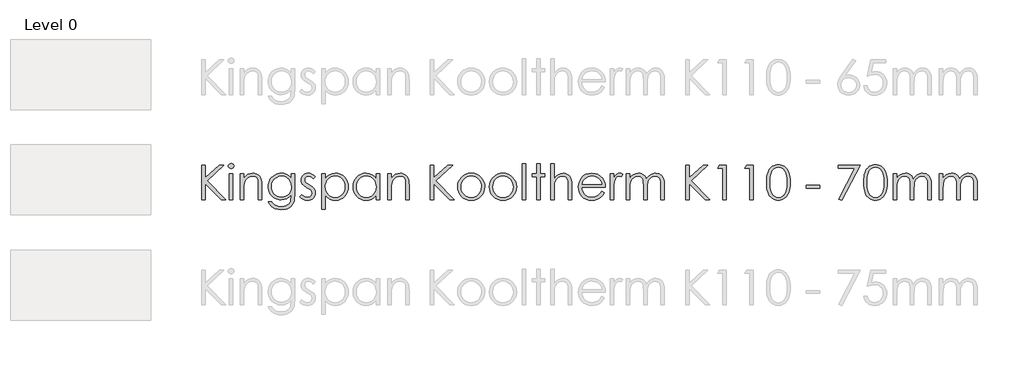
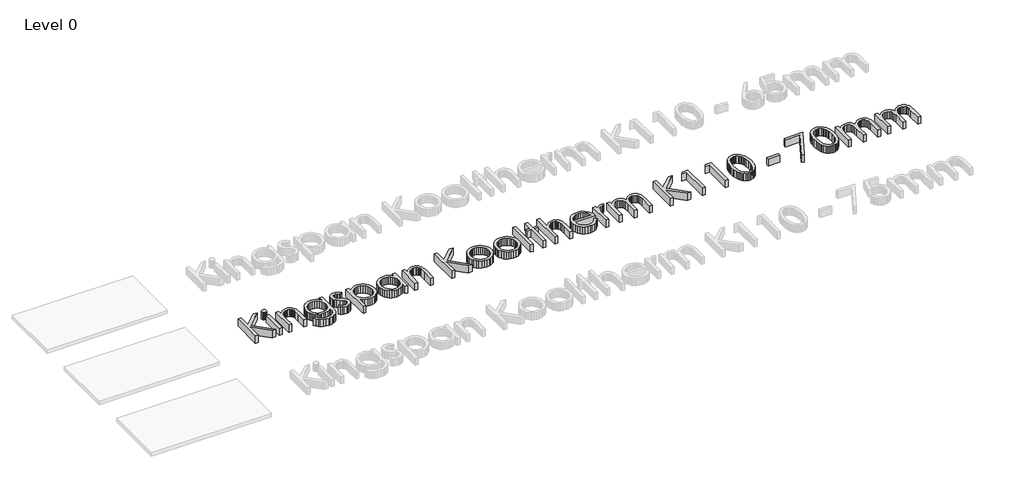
# One storey, part 8 of 9: 1 proxy.
"""IFC4 building model written with IfcOpenShell, lengths in millimetres."""

from ifc_helpers import new_model, si_unit, origin, origin_with_axes, place, context, project, spatial, polyline, outline, extrude, element, save

model = new_model("IFC4")

# Units and contexts
model_context = context("Model", 3, world=origin())
ifc_project = project(units=[si_unit("LENGTHUNIT", "METRE", prefix="MILLI")], contexts=[model_context])

# Site, building, storey
site = spatial("IfcSite", under=ifc_project)
building = spatial("IfcBuilding", under=site)
storey = spatial("IfcBuildingStorey", under=building, Name="Level 0", Elevation=0.0)

# Proxy
placement = place(None, origin())
element("IfcBuildingElementProxy", 1, Name="600mm KI_CenturyGothic", ObjectType="600mm KI_CenturyGothic", at=placement, inside=storey, context=model_context, shape_type="SweptSolid", body=[
    extrude(outline(polyline([(-3852.2663848, 4100.8965983), (-3792.944575, 4100.8965983), (-3792.944575, 3881.683973), (-3555.1938841, 4100.8965983), (-3471.6181051, 4100.8965983), (-3760.9664119, 3833.9484541), (-3441.9572002, 3507.6785001), (-3520.8984627, 3507.6785001), (-3792.944575, 3785.9039675), (-3792.944575, 3507.6785001), (-3852.2663848, 3507.6785001), (-3852.2663848, 4100.8965983)])), origin_with_axes(), (0.0, 0.0, 1.0), 150.0),
    extrude(outline(polyline([(-3348.1854852, 4130.5575033), (-3329.145347, 4127.2747208), (-3313.1176445, 4117.4263735), (-3302.226531, 4102.9821307), (-3298.5961598, 4085.911662), (-3302.226531, 4069.0729191), (-3313.1176445, 4054.7059183), (-3329.145347, 4044.857571), (-3348.1854852, 4041.5747885), (-3366.9938975, 4044.857571), (-3382.9443581, 4054.7059183), (-3393.8354717, 4069.0729191), (-3397.4658428, 4085.911662), (-3393.8354717, 4102.9821307), (-3382.9443581, 4117.4263735), (-3366.9938975, 4127.2747208), (-3348.1854852, 4130.5575033)])), origin_with_axes(), (0.0, 0.0, 1.0), 150.0),
    extrude(outline(polyline([(-3377.6919062, 3952.5920738), (-3318.3700964, 3952.5920738), (-3318.3700964, 3507.6785001), (-3377.6919062, 3507.6785001), (-3377.6919062, 3952.5920738)])), origin_with_axes(), (0.0, 0.0, 1.0), 150.0),
    extrude(outline(polyline([(-3189.8395084, 3952.5920738), (-3130.5176986, 3952.5920738), (-3130.5176986, 3873.4963274), (-3096.9946967, 3913.0055796), (-3060.0730495, 3940.696815), (-3019.7141359, 3957.0334853), (-2975.879335, 3962.4790421), (-2953.4357238, 3960.9004099), (-2932.2955704, 3956.1645135), (-2912.4588747, 3948.2713528), (-2893.9256368, 3937.2209277), (-2877.212412, 3923.4960006), (-2862.835756, 3907.5793333), (-2841.0921499, 3869.1707787), (-2833.6238199, 3844.7912914), (-2828.2892984, 3814.4448643), (-2824.0216812, 3735.8511905), (-2824.0216812, 3507.6785001), (-2883.343491, 3507.6785001), (-2883.343491, 3720.8662542), (-2883.343491, 3823.907002), (-2884.7290183, 3844.7043943), (-2889.8125035, 3862.7596977), (-2898.2849788, 3878.0729123), (-2910.1464442, 3890.644038), (-2924.7403432, 3900.4441091), (-2941.4101193, 3907.4441599), (-2980.977303, 3913.0442006), (-3005.3471351, 3910.8862539), (-3028.4038541, 3904.4124138), (-3050.1474602, 3893.6226803), (-3070.5779533, 3878.5170534), (-3088.6622225, 3860.2348518), (-3103.3671568, 3839.915394), (-3114.6927562, 3817.55868), (-3122.6390208, 3793.1647099), (-3128.5480292, 3746.0857475), (-3130.5176986, 3671.5858965), (-3130.5176986, 3507.6785001), (-3189.8395084, 3507.6785001), (-3189.8395084, 3952.5920738)])), origin_with_axes(), (0.0, 0.0, 1.0), 150.0),
    extrude(outline(polyline([(-2319.7862977, 3952.5920738), (-2260.4644879, 3952.5920738), (-2260.4644879, 3601.604699), (-2264.5196897, 3521.3503235), (-2269.588692, 3490.5500999), (-2276.6852953, 3465.9678526), (-2289.9371156, 3437.3545415), (-2307.2924139, 3412.2267729), (-2328.7511904, 3390.5845469), (-2354.3134448, 3372.4278634), (-2383.3226209, 3358.0656902), (-2415.122162, 3347.8069951), (-2449.7120682, 3341.651778), (-2487.0923395, 3339.6000389), (-2541.0458345, 3343.6166198), (-2589.206184, 3355.6663624), (-2630.260275, 3374.4940853), (-2662.8949946, 3398.8446068), (-2690.2000204, 3432.1938144), (-2715.2650299, 3478.0175952), (-2655.94322, 3478.0175952), (-2642.4355358, 3456.848476), (-2627.0933555, 3438.6048954), (-2609.9166791, 3423.2868532), (-2590.9055067, 3410.8943494), (-2569.7894914, 3401.3308318), (-2546.2982864, 3394.4997477), (-2492.1903075, 3389.0348805), (-2438.5071593, 3394.3645743), (-2415.083541, 3401.0266916), (-2393.93856, 3410.3536559), (-2359.6624492, 3434.3952097), (-2336.8567664, 3463.8823202), (-2329.3884364, 3482.5217658), (-2324.0539149, 3506.2302137), (-2319.7862977, 3568.8541165), (-2319.7862977, 3591.5632468), (-2354.757586, 3555.7809182), (-2396.6420279, 3529.3834852), (-2443.392712, 3513.1047464), (-2492.9627269, 3507.6785001), (-2522.4063889, 3509.5757553), (-2550.9521133, 3515.2675207), (-2578.5999001, 3524.7537964), (-2605.3497494, 3538.0345825), (-2630.1540674, 3554.5257366), (-2651.9652601, 3573.6431168), (-2670.7833277, 3595.3867228), (-2686.6082702, 3619.7565549), (-2699.1456025, 3646.0719183), (-2708.1008399, 3673.6521184), (-2713.4739824, 3702.4971553), (-2715.2650299, 3732.607029), (-2713.3967404, 3762.8955247), (-2707.7918722, 3792.1219437), (-2698.4504251, 3820.286286), (-2685.3723991, 3847.3885517), (-2668.9971079, 3872.5742517), (-2649.7638648, 3894.9888971), (-2627.67267, 3914.632488), (-2602.7235235, 3931.5050242), (-2575.9833294, 3945.056157), (-2548.5189922, 3954.7355376), (-2520.3305117, 3960.543166), (-2491.4178881, 3962.4790421), (-2444.5320306, 3957.5355579), (-2400.8903346, 3942.7051055), (-2359.6045177, 3916.1338782), (-2319.7862977, 3875.9680694), (-2319.7862977, 3952.5920738)]), holes=[polyline([(-2484.1571458, 3913.0442006), (-2529.0154023, 3907.0193293), (-2570.5908765, 3888.9447153), (-2606.2187212, 3860.2300242), (-2633.2340897, 3822.2849212), (-2650.2659375, 3778.0059792), (-2655.94322, 3730.2897708), (-2653.0080263, 3694.3770964), (-2644.2024452, 3661.7182387), (-2629.5264766, 3632.3131977), (-2608.9801206, 3606.1619734), (-2583.7606272, 3584.703197), (-2555.0652466, 3569.3754996), (-2522.8939786, 3560.1788811), (-2487.2468234, 3557.1133416), (-2451.3244937, 3560.154743), (-2419.1001219, 3569.2789472), (-2390.573708, 3584.4859541), (-2365.7452519, 3605.7757637), (-2345.6382095, 3632.0187128), (-2331.2760363, 3662.0851379), (-2322.6587323, 3695.975039), (-2319.7862977, 3733.6884162), (-2325.0773706, 3782.3894593), (-2340.9505892, 3825.6063246), (-2366.4983608, 3861.8327944), (-2400.8130926, 3889.5626508), (-2440.9982119, 3907.1738131), (-2484.1571458, 3913.0442006)])]), origin_with_axes(), (0.0, 0.0, 1.0), 150.0),
    extrude(outline(polyline([(-1904.5336289, 3901.3034257), (-1940.9918246, 3863.609359), (-1962.9575012, 3885.2371022), (-1984.6721416, 3900.6854902), (-2006.1357456, 3909.954523), (-2027.3483133, 3913.0442006), (-2052.181597, 3908.3710632), (-2073.2300256, 3894.3516511), (-2087.5970264, 3874.1142629), (-2092.3860267, 3850.787197), (-2088.4466878, 3829.2366958), (-2076.628671, 3808.7675817), (-2052.0657341, 3786.599145), (-2010.2006027, 3760.877579), (-1958.3326401, 3728.0111336), (-1939.8428507, 3712.1861912), (-1926.315856, 3696.7667689), (-1909.9791857, 3664.0934284), (-1904.5336289, 3627.5579908), (-1906.9474396, 3601.4115941), (-1914.1888714, 3577.3507299), (-1926.2579245, 3555.375398), (-1943.1545989, 3535.4855985), (-1963.6719892, 3518.9944443), (-1986.6031901, 3507.2150485), (-2011.9482016, 3500.147411), (-2039.7070237, 3497.7915318), (-2077.4397114, 3501.6729393), (-2113.3958344, 3513.3171617), (-2145.4512394, 3531.7972958), (-2171.4817731, 3556.1864383), (-2135.7959969, 3596.6612148), (-2114.0041146, 3575.0334717), (-2091.5749863, 3559.5850837), (-2068.5086121, 3550.3160509), (-2044.8049918, 3547.2263733), (-2013.637869, 3552.8650349), (-1987.4914724, 3569.7810198), (-1969.7644472, 3594.3439566), (-1963.8554388, 3622.9234744), (-1967.7561567, 3646.7139919), (-1979.4583106, 3667.7237995), (-2005.0253927, 3689.4287846), (-2050.2119275, 3716.2317378), (-2099.762632, 3746.8967879), (-2117.441381, 3762.0555186), (-2130.3890611, 3777.0983864), (-2146.3781427, 3809.2310334), (-2151.7078365, 3845.689229), (-2149.5305794, 3869.7356104), (-2142.9988078, 3891.6674937), (-2132.1125219, 3911.4848789), (-2116.8717217, 3929.187766), (-2098.309518, 3943.7526993), (-2077.4590218, 3954.1562231), (-2054.3202332, 3960.3983373), (-2028.8931521, 3962.4790421), (-1997.9481, 3958.6555661), (-1966.9064954, 3947.185138), (-1935.7683384, 3928.0677579), (-1904.5336289, 3901.3034257)])), origin_with_axes(), (0.0, 0.0, 1.0), 150.0),
    extrude(outline(polyline([(-1795.7769776, 3952.5920738), (-1736.4551678, 3952.5920738), (-1736.4551678, 3871.4880369), (-1700.9238754, 3911.7310876), (-1660.4490989, 3940.0788795), (-1614.9922173, 3956.8790014), (-1564.5146096, 3962.4790421), (-1520.0618732, 3958.2403906), (-1478.9305402, 3945.5244363), (-1441.1206107, 3924.331179), (-1406.6320845, 3894.6606189), (-1377.9077381, 3859.0231189), (-1357.3903478, 3819.929042), (-1345.0799137, 3777.3783884), (-1340.9764356, 3731.371158), (-1345.0412927, 3684.4708176), (-1357.235864, 3641.2491246), (-1377.5601494, 3601.706079), (-1406.014149, 3565.8416808), (-1440.2130179, 3536.0697406), (-1477.7719111, 3514.8040691), (-1518.6908288, 3502.0446661), (-1562.9697708, 3497.7915318), (-1612.6170277, 3503.256399), (-1658.0545988, 3519.6510008), (-1699.3211052, 3546.8980951), (-1736.4551678, 3584.92044), (-1736.4551678, 3349.4870072), (-1795.7769776, 3349.4870072), (-1795.7769776, 3952.5920738)]), holes=[polyline([(-1568.5311905, 3913.0442006), (-1602.5852307, 3909.7469353), (-1633.8392507, 3899.8551393), (-1662.2932503, 3883.3688128), (-1687.9472295, 3860.2879556), (-1709.1694525, 3832.3022353), (-1724.3281832, 3801.1013192), (-1733.4234216, 3766.6852074), (-1736.4551678, 3729.0538998), (-1731.048232, 3680.1983728), (-1714.8274246, 3636.5180558), (-1688.5265441, 3599.6736505), (-1652.8793888, 3571.3258586), (-1611.4390881, 3553.2512446), (-1567.7587711, 3547.2263733), (-1525.0632888, 3553.2898656), (-1485.0326535, 3571.4803424), (-1450.2544701, 3600.5812433), (-1423.3163435, 3639.3760076), (-1406.05277, 3684.0411593), (-1400.2982454, 3730.7532225), (-1405.9948385, 3777.6970114), (-1423.0846177, 3822.1304373), (-1449.8103289, 3860.4810605), (-1484.414718, 3889.1764411), (-1524.7157001, 3907.0772607), (-1568.5311905, 3913.0442006)])]), origin_with_axes(), (0.0, 0.0, 1.0), 150.0),
    extrude(outline(polyline([(-807.0801472, 3952.5920738), (-807.0801472, 3507.6785001), (-866.401957, 3507.6785001), (-866.401957, 3583.5300851), (-903.4780882, 3545.6815345), (-944.8797679, 3518.9558233), (-990.4525125, 3503.0826047), (-1040.0418379, 3497.7915318), (-1084.3159523, 3502.0446661), (-1125.2203871, 3514.8040691), (-1162.7551422, 3536.0697406), (-1196.9202178, 3565.8416808), (-1225.340424, 3601.706079), (-1245.6405713, 3641.2491246), (-1257.8206597, 3684.4708176), (-1261.8806892, 3731.371158), (-1257.7820388, 3777.3783884), (-1245.4860875, 3819.929042), (-1224.9928353, 3859.0231189), (-1196.3022822, 3894.6606189), (-1161.8475494, 3924.331179), (-1124.061758, 3945.5244363), (-1082.9449079, 3958.2403906), (-1038.4969991, 3962.4790421), (-987.7490446, 3956.8790014), (-942.0990581, 3940.0788795), (-921.2051134, 3927.3918909), (-901.6242816, 3911.7310876), (-866.401957, 3871.4880369), (-866.401957, 3952.5920738), (-807.0801472, 3952.5920738)]), holes=[polyline([(-1034.3259343, 3913.0442006), (-1078.1414247, 3907.0772607), (-1118.4424068, 3889.1764411), (-1153.0467959, 3860.4810605), (-1179.7725071, 3822.1304373), (-1196.8622863, 3777.6970114), (-1202.5588794, 3730.7532225), (-1196.8043548, 3684.0411593), (-1179.5407813, 3639.3760076), (-1152.6026548, 3600.5812433), (-1117.8244713, 3571.4803424), (-1077.6779731, 3553.2898656), (-1034.6349021, 3547.2263733), (-991.0125165, 3553.2512446), (-949.7460102, 3571.3258586), (-914.2726493, 3599.6736505), (-888.0297002, 3636.5180558), (-871.8088928, 3680.1983728), (-866.401957, 3729.0538998), (-869.4337032, 3766.6852074), (-878.5289416, 3801.1013192), (-893.6876723, 3832.3022353), (-914.9098953, 3860.2879556), (-940.5638746, 3883.3688128), (-969.0178742, 3899.8551393), (-1000.2718941, 3909.7469353), (-1034.3259343, 3913.0442006)])]), origin_with_axes(), (0.0, 0.0, 1.0), 150.0),
    extrude(outline(polyline([(-668.662591, 3952.5920738), (-609.3407811, 3952.5920738), (-609.3407811, 3873.4963274), (-575.8177792, 3913.0055796), (-538.896132, 3940.696815), (-498.5372184, 3957.0334853), (-454.7024175, 3962.4790421), (-432.2588064, 3960.9004099), (-411.1186529, 3956.1645135), (-391.2819572, 3948.2713528), (-372.7487193, 3937.2209277), (-356.0354946, 3923.4960006), (-341.6588385, 3907.5793333), (-319.9152324, 3869.1707787), (-312.4469024, 3844.7912914), (-307.1123809, 3814.4448643), (-302.8447637, 3735.8511905), (-302.8447637, 3507.6785001), (-362.1665735, 3507.6785001), (-362.1665735, 3720.8662542), (-362.1665735, 3823.907002), (-363.5521008, 3844.7043943), (-368.635586, 3862.7596977), (-377.1080613, 3878.0729123), (-388.9695267, 3890.644038), (-403.5634257, 3900.4441091), (-420.2332018, 3907.4441599), (-459.8003855, 3913.0442006), (-484.1702176, 3910.8862539), (-507.2269366, 3904.4124138), (-528.9705427, 3893.6226803), (-549.4010358, 3878.5170534), (-567.485305, 3860.2348518), (-582.1902393, 3839.915394), (-593.5158387, 3817.55868), (-601.4621033, 3793.1647099), (-607.3711117, 3746.0857475), (-609.3407811, 3671.5858965), (-609.3407811, 3507.6785001), (-668.662591, 3507.6785001), (-668.662591, 3952.5920738)])), origin_with_axes(), (0.0, 0.0, 1.0), 150.0),
    extrude(outline(polyline([(62.9730635, 4100.8965983), (122.2948734, 4100.8965983), (122.2948734, 3881.683973), (360.0455643, 4100.8965983), (443.6213432, 4100.8965983), (154.2730365, 3833.9484541), (473.2822481, 3507.6785001), (394.3409856, 3507.6785001), (122.2948734, 3785.9039675), (122.2948734, 3507.6785001), (62.9730635, 3507.6785001), (62.9730635, 4100.8965983)])), origin_with_axes(), (0.0, 0.0, 1.0), 150.0),
    extrude(outline(polyline([(760.1588128, 3962.4790421), (809.4681362, 3957.8541809), (854.3553585, 3943.9795975), (894.8204798, 3920.8552917), (930.8635, 3888.4812637), (957.7630055, 3853.2492839), (976.9769381, 3814.908316), (988.5052976, 3773.45836), (992.3480841, 3728.8994159), (988.283227, 3684.0846079), (976.0886558, 3642.1760279), (955.7643703, 3603.1736759), (927.3103707, 3567.0775519), (892.4742558, 3536.7649181), (853.0036246, 3515.1130368), (808.8984769, 3502.1219081), (760.1588128, 3497.7915318), (711.2839754, 3502.1219081), (667.0822753, 3515.1130368), (627.5537126, 3536.7649181), (592.6982872, 3567.0775519), (564.2442876, 3603.1736759), (543.9200022, 3642.1760279), (531.7254309, 3684.0846079), (527.6605738, 3728.8994159), (531.5033603, 3773.2652551), (543.0317198, 3814.5993482), (562.2456524, 3852.9016951), (589.145158, 3888.1722959), (625.2074886, 3920.6814974), (665.7305413, 3943.9023555), (710.7143161, 3957.8348705), (760.1588128, 3962.4790421)]), holes=[polyline([(760.004329, 3913.0442006), (725.7282181, 3909.6696933), (693.9624704, 3899.5461716), (664.7070856, 3882.6736353), (637.962064, 3859.0520846), (615.6584538, 3830.6415336), (599.7273037, 3799.4019965), (590.1686137, 3765.3334734), (586.9823836, 3728.4359643), (592.7948396, 3680.7004454), (610.2322075, 3636.3635719), (637.5758543, 3598.5729529), (673.1071466, 3570.4761972), (714.6439998, 3553.0388293), (760.004329, 3547.2263733), (805.3646581, 3553.0388293), (846.9015113, 3570.4761972), (882.4328037, 3598.5729529), (909.7764504, 3636.3635719), (927.2138183, 3680.7004454), (933.0262743, 3728.4359643), (929.8255614, 3765.3334734), (920.2234227, 3799.4019965), (904.2198583, 3830.6415336), (881.8148681, 3859.0520846), (854.9974321, 3882.6736353), (825.7565303, 3899.5461716), (794.0921625, 3909.6696933), (760.004329, 3913.0442006)])]), origin_with_axes(), (0.0, 0.0, 1.0), 150.0),
    extrude(outline(polyline([(1303.9420695, 3962.4790421), (1353.2513929, 3957.8541809), (1398.1386152, 3943.9795975), (1438.6037365, 3920.8552917), (1474.6467567, 3888.4812637), (1501.5462622, 3853.2492839), (1520.7601948, 3814.908316), (1532.2885543, 3773.45836), (1536.1313408, 3728.8994159), (1532.0664837, 3684.0846079), (1519.8719125, 3642.1760279), (1499.547627, 3603.1736759), (1471.0936274, 3567.0775519), (1436.2575126, 3536.7649181), (1396.7868813, 3515.1130368), (1352.6817336, 3502.1219081), (1303.9420695, 3497.7915318), (1255.0672321, 3502.1219081), (1210.865532, 3515.1130368), (1171.3369693, 3536.7649181), (1136.4815439, 3567.0775519), (1108.0275443, 3603.1736759), (1087.7032589, 3642.1760279), (1075.5086876, 3684.0846079), (1071.4438305, 3728.8994159), (1075.286617, 3773.2652551), (1086.8149766, 3814.5993482), (1106.0289091, 3852.9016951), (1132.9284147, 3888.1722959), (1168.9907453, 3920.6814974), (1209.5137981, 3943.9023555), (1254.4975728, 3957.8348705), (1303.9420695, 3962.4790421)]), holes=[polyline([(1303.7875857, 3913.0442006), (1269.5114748, 3909.6696933), (1237.7457271, 3899.5461716), (1208.4903423, 3882.6736353), (1181.7453207, 3859.0520846), (1159.4417105, 3830.6415336), (1143.5105604, 3799.4019965), (1133.9518704, 3765.3334734), (1130.7656404, 3728.4359643), (1136.5780963, 3680.7004454), (1154.0154643, 3636.3635719), (1181.359111, 3598.5729529), (1216.8904033, 3570.4761972), (1258.4272565, 3553.0388293), (1303.7875857, 3547.2263733), (1349.1479149, 3553.0388293), (1390.684768, 3570.4761972), (1426.2160604, 3598.5729529), (1453.5597071, 3636.3635719), (1470.997075, 3680.7004454), (1476.809531, 3728.4359643), (1473.6088181, 3765.3334734), (1464.0066795, 3799.4019965), (1448.003115, 3830.6415336), (1425.5981249, 3859.0520846), (1398.7806889, 3882.6736353), (1369.539787, 3899.5461716), (1337.8754193, 3909.6696933), (1303.7875857, 3913.0442006)])]), origin_with_axes(), (0.0, 0.0, 1.0), 150.0),
    extrude(outline(polyline([(1635.0010238, 4120.6705349), (1694.3228337, 4120.6705349), (1694.3228337, 3507.6785001), (1635.0010238, 3507.6785001), (1635.0010238, 4120.6705349)])), origin_with_axes(), (0.0, 0.0, 1.0), 150.0),
    extrude(outline(polyline([(1882.1752314, 4120.6705349), (1941.4970413, 4120.6705349), (1941.4970413, 3952.5920738), (2020.5927877, 3952.5920738), (2020.5927877, 3903.1572323), (1941.4970413, 3903.1572323), (1941.4970413, 3507.6785001), (1882.1752314, 3507.6785001), (1882.1752314, 3903.1572323), (1803.079485, 3903.1572323), (1803.079485, 3952.5920738), (1882.1752314, 3952.5920738), (1882.1752314, 4120.6705349)])), origin_with_axes(), (0.0, 0.0, 1.0), 150.0),
    extrude(outline(polyline([(2119.4624707, 4120.6705349), (2178.7842806, 4120.6705349), (2178.7842806, 3871.9514886), (2212.5583188, 3911.6538456), (2249.6151394, 3939.9243956), (2289.9161216, 3956.8403805), (2333.4226442, 3962.4790421), (2355.8662553, 3960.9004099), (2377.0064088, 3956.1645135), (2396.8431044, 3948.2713528), (2415.3763424, 3937.2209277), (2432.0895671, 3923.5104834), (2446.4662232, 3907.6372648), (2468.2098293, 3869.4025045), (2475.6781593, 3845.0954316), (2481.0126808, 3814.7345216), (2485.280298, 3735.8511905), (2485.280298, 3507.6785001), (2425.9584882, 3507.6785001), (2425.9584882, 3720.8662542), (2424.5681332, 3785.247411), (2420.3970685, 3823.907002), (2406.879729, 3862.7596977), (2397.1665551, 3878.0729123), (2385.4837117, 3890.644038), (2371.840854, 3900.4441091), (2356.2476374, 3907.4441599), (2319.2101273, 3913.0442006), (2296.3416854, 3910.8862539), (2274.6994594, 3904.4124138), (2254.2834492, 3893.6226803), (2235.0936547, 3878.5170534), (2218.1052556, 3860.2348518), (2204.2934312, 3839.915394), (2193.6581816, 3817.55868), (2186.1995068, 3793.1647099), (2180.6380871, 3746.3174733), (2178.7842806, 3671.5858965), (2178.7842806, 3507.6785001), (2119.4624707, 3507.6785001), (2119.4624707, 4120.6705349)])), origin_with_axes(), (0.0, 0.0, 1.0), 150.0),
    extrude(outline(polyline([(2991.0605203, 3655.9830247), (3038.950523, 3630.8021523), (3013.3255094, 3588.9177104), (2984.0315038, 3555.9547125), (2950.952643, 3530.8703926), (2913.9730643, 3512.6219843), (2872.4941426, 3501.4991449), (2825.9172528, 3497.7915318), (2774.4258447, 3502.2232881), (2728.8627554, 3515.518557), (2689.227985, 3537.6773385), (2655.5215335, 3568.6996326), (2628.6220279, 3605.3026569), (2609.4080954, 3644.2036288), (2597.8797358, 3685.4025485), (2594.0369493, 3728.8994159), (2597.3197318, 3769.7797126), (2607.1680791, 3808.381372), (2623.5819913, 3844.7043943), (2646.5614684, 3878.7487793), (2682.7493173, 3915.3807692), (2724.5758277, 3941.5464764), (2772.0409998, 3957.2459007), (2825.1448334, 3962.4790421), (2879.7935059, 3957.1107273), (2928.6490329, 3941.0057828), (2971.7114143, 3914.1642087), (3008.9806503, 3876.5860049), (3030.4539096, 3844.414737), (3045.9022976, 3808.458614), (3055.3258143, 3768.7176359), (3058.7244596, 3725.1918028), (2653.3587591, 3725.1918028), (2657.095338, 3687.9370497), (2666.6057518, 3654.1871496), (2681.8900007, 3623.9421025), (2702.9480845, 3597.2019084), (2728.3124066, 3575.3376118), (2756.5153699, 3559.7202571), (2787.5569744, 3550.3498443), (2821.4372203, 3547.2263733), (2854.9602222, 3550.238809), (2887.5563208, 3559.2761159), (2917.2944677, 3573.3148385), (2942.2436143, 3591.331521), (2965.725164, 3617.4972281), (2991.0605203, 3655.9830247)]), holes=[polyline([(2999.4026498, 3774.6266443), (2984.9777175, 3817.1483322), (2965.1844704, 3850.1692615), (2939.0766947, 3875.6977226), (2905.7081767, 3895.742006), (2867.7630738, 3908.7186519), (2827.9255433, 3913.0442006), (2795.503239, 3910.3310774), (2765.4368139, 3902.191708), (2737.726268, 3888.6260923), (2712.3716012, 3869.6342304), (2695.8321708, 3851.820308), (2681.4362043, 3830.0477362), (2669.1837016, 3804.316515), (2659.0746627, 3774.6266443), (2999.4026498, 3774.6266443)])]), origin_with_axes(), (0.0, 0.0, 1.0), 150.0),
    extrude(outline(polyline([(3137.820206, 3952.5920738), (3197.1420159, 3952.5920738), (3197.1420159, 3888.1722959), (3222.6897875, 3921.2125357), (3249.589293, 3944.3271862), (3277.7632906, 3957.9410781), (3307.1345382, 3962.4790421), (3330.4616041, 3958.694187), (3355.3335087, 3947.3396219), (3325.8270877, 3905.3200066), (3297.2475699, 3913.0442006), (3270.8308265, 3907.0965712), (3245.3409863, 3889.2536831), (3223.2884125, 3858.8976007), (3207.183468, 3815.4103886), (3199.6523789, 3757.2858288), (3197.1420159, 3659.8451217), (3197.1420159, 3507.6785001), (3137.820206, 3507.6785001), (3137.820206, 3952.5920738)])), origin_with_axes(), (0.0, 0.0, 1.0), 150.0),
    extrude(outline(polyline([(3414.6553185, 3952.5920738), (3473.9771284, 3952.5920738), (3473.9771284, 3876.4315211), (3503.5607913, 3912.9283377), (3533.9168737, 3938.0705891), (3577.3268439, 3956.3769288), (3622.8995884, 3962.4790421), (3653.7384329, 3959.331433), (3682.9165757, 3949.8886059), (3708.6767627, 3935.2126373), (3729.2617397, 3916.365604), (3746.0425511, 3890.9336953), (3760.3902414, 3856.5031006), (3775.16759, 3880.9018983), (3791.6925376, 3902.191708), (3809.965084, 3920.3725296), (3829.9852293, 3935.4443631), (3851.2798666, 3947.2720352), (3873.375889, 3955.7203723), (3896.2732965, 3960.7893747), (3919.9720892, 3962.4790421), (3962.3006723, 3956.6665861), (3981.4952943, 3949.4010161), (3999.3768034, 3939.2292182), (4015.4914031, 3926.46016), (4029.385297, 3911.4028093), (4050.5109676, 3874.4232306), (4057.8103309, 3851.0478886), (4063.0241619, 3822.4780261), (4067.1952266, 3749.7547397), (4067.1952266, 3507.6785001), (4007.8734168, 3507.6785001), (4007.8734168, 3753.3078689), (4005.4209852, 3814.4255538), (3998.0636904, 3852.8727294), (3984.7587663, 3877.3391139), (3964.4634466, 3896.5144254), (3938.3942919, 3908.9117568), (3907.7678627, 3913.0442006), (3888.1194443, 3911.4945341), (3869.3399976, 3906.8455349), (3834.3880198, 3888.2495379), (3805.6540182, 3859.3031209), (3785.8800816, 3822.0531954), (3779.1889985, 3797.8957787), (3774.4096535, 3766.8252084), (3770.5861775, 3683.9446069), (3770.5861775, 3507.6785001), (3711.2643677, 3507.6785001), (3711.2643677, 3738.0139648), (3708.850557, 3806.469634), (3701.6091252, 3848.7016647), (3688.3621325, 3874.9446137), (3667.9316394, 3895.4330383), (3641.6114484, 3908.64141), (3610.6953619, 3913.0442006), (3573.7544042, 3907.0000188), (3539.2465676, 3888.8674734), (3510.2808401, 3860.500371), (3489.9662099, 3823.7525181), (3477.9743988, 3771.9231764), (3473.9771284, 3698.3116077), (3473.9771284, 3507.6785001), (3414.6553185, 3507.6785001), (3414.6553185, 3952.5920738)])), origin_with_axes(), (0.0, 0.0, 1.0), 150.0),
    extrude(outline(polyline([(4433.0130538, 4100.8965983), (4492.3348637, 4100.8965983), (4492.3348637, 3881.683973), (4730.0855546, 4100.8965983), (4813.6613335, 4100.8965983), (4524.3130268, 3833.9484541), (4843.3222385, 3507.6785001), (4764.3809759, 3507.6785001), (4492.3348637, 3785.9039675), (4492.3348637, 3507.6785001), (4433.0130538, 3507.6785001), (4433.0130538, 4100.8965983)])), origin_with_axes(), (0.0, 0.0, 1.0), 150.0),
    extrude(outline(polyline([(5010.6282802, 4100.8965983), (5125.1008351, 4100.8965983), (5125.1008351, 3507.6785001), (5065.7790253, 3507.6785001), (5065.7790253, 4051.4617568), (4976.7963106, 4051.4617568), (5010.6282802, 4100.8965983)])), origin_with_axes(), (0.0, 0.0, 1.0), 150.0),
    extrude(outline(polyline([(5475.3157905, 4100.8965983), (5589.7883454, 4100.8965983), (5589.7883454, 3507.6785001), (5530.4665356, 3507.6785001), (5530.4665356, 4051.4617568), (5441.4838208, 4051.4617568), (5475.3157905, 4100.8965983)])), origin_with_axes(), (0.0, 0.0, 1.0), 150.0),
    extrude(outline(polyline([(5817.1886164, 3804.1330653), (5818.7672485, 3858.5644948), (5823.503145, 3906.4593252), (5831.3963057, 3947.8175564), (5842.4467307, 3982.6391884), (5856.374418, 4012.2807828), (5872.8993655, 4038.0989012), (5892.0215733, 4060.0935436), (5913.7410412, 4078.26471), (5937.4350063, 4092.4917098), (5962.4807053, 4102.6538525), (5988.8781382, 4108.7511381), (6016.6273051, 4110.7835666), (6044.8302684, 4108.7366552), (6071.6621873, 4102.595921), (6097.1230617, 4092.361364), (6121.2128917, 4078.0329841), (6143.3958113, 4059.6156091), (6163.1359546, 4037.1140665), (6180.4333215, 4010.5283563), (6195.2879121, 3979.8584786), (6207.2169642, 3944.3416691), (6215.7377157, 3903.2151637), (6220.8501666, 3856.4789625), (6222.5543169, 3804.1330653), (6220.8743047, 3751.9464797), (6215.8342681, 3705.3792452), (6207.4342071, 3664.4313618), (6195.6741218, 3629.1028296), (6180.9643599, 3598.5777805), (6163.7152692, 3572.0403465), (6143.9268497, 3549.4905277), (6121.5991014, 3530.928324), (6097.3403047, 3516.4309774), (6071.7587397, 3506.0757299), (6044.8544066, 3499.8625813), (6016.6273051, 3497.7915318), (5988.9022764, 3499.7998222), (5962.5772577, 3505.8246936), (5937.6522492, 3515.8661457), (5914.1272509, 3529.9241788), (5892.5526116, 3547.9601718), (5873.4786801, 3569.9355036), (5856.9054564, 3595.8501745), (5842.8329404, 3625.7041842), (5831.6135487, 3660.7237487), (5823.5996974, 3702.1350837), (5818.7913866, 3749.9381893), (5817.1886164, 3804.1330653)]), holes=[polyline([(5876.5104262, 3804.2875492), (5880.8939063, 3715.961391), (5886.3732564, 3680.9804475), (5894.0443466, 3652.1209277), (5903.8589006, 3627.8814414), (5915.7686422, 3606.7605985), (5929.7735714, 3588.7583989), (5945.8736882, 3573.8748426), (5981.1732547, 3553.8884906), (5999.5761469, 3548.8919027), (6018.4811117, 3547.2263733), (6037.4729737, 3548.8581093), (6055.8275896, 3553.7533172), (6090.6250835, 3573.334149), (6106.3824393, 3588.0101176), (6120.1315046, 3605.9302476), (6131.8722794, 3627.0945392), (6141.6047639, 3651.5029922), (6151.0669015, 3684.8618549), (6157.8255712, 3721.4455687), (6163.232507, 3804.2875492), (6158.4048858, 3885.8936587), (6152.3703592, 3920.5849449), (6143.9220221, 3951.2017189), (6133.3398763, 3977.864671), (6120.903924, 4000.6944918), (6106.6141651, 4019.6911814), (6090.4705997, 4034.8547397), (6055.402759, 4054.7252288), (6037.1736612, 4059.692851), (6018.4811117, 4061.3487251), (5999.4651116, 4059.692851), (5981.0380814, 4054.7252288), (5945.9509302, 4034.8547397), (5930.0052972, 4020.0435978), (5916.0776099, 4002.1041572), (5904.1678683, 3981.0364181), (5894.2760724, 3956.8403805), (5886.5036022, 3927.9856883), (5880.9518378, 3892.9419857), (5876.5104262, 3804.2875492)])]), origin_with_axes(), (0.0, 0.0, 1.0), 150.0),
    extrude(outline(polyline([(6499.3894294, 3754.8527077), (6726.7897004, 3754.8527077), (6726.7897004, 3705.4178662), (6499.3894294, 3705.4178662), (6499.3894294, 3754.8527077)])), origin_with_axes(), (0.0, 0.0, 1.0), 150.0),
    extrude(outline(polyline([(7043.1726861, 4100.8965983), (7418.8774816, 4100.8965983), (7102.4944959, 3497.7915318), (7048.5796219, 3520.1916944), (7327.2685409, 4051.4617568), (7043.1726861, 4051.4617568), (7043.1726861, 4100.8965983)])), origin_with_axes(), (0.0, 0.0, 1.0), 150.0),
    extrude(outline(polyline([(7478.1992914, 3804.1330653), (7479.7779236, 3858.5644948), (7484.51382, 3906.4593252), (7492.4069808, 3947.8175564), (7503.4574058, 3982.6391884), (7517.3850931, 4012.2807828), (7533.9100406, 4038.0989012), (7553.0322483, 4060.0935436), (7574.7517163, 4078.26471), (7598.4456813, 4092.4917098), (7623.4913804, 4102.6538525), (7649.8888133, 4108.7511381), (7677.6379802, 4110.7835666), (7705.8409435, 4108.7366552), (7732.6728624, 4102.595921), (7758.1337368, 4092.361364), (7782.2235668, 4078.0329841), (7804.4064864, 4059.6156091), (7824.1466297, 4037.1140665), (7841.4439966, 4010.5283563), (7856.2985871, 3979.8584786), (7868.2276392, 3944.3416691), (7876.7483907, 3903.2151637), (7881.8608416, 3856.4789625), (7883.5649919, 3804.1330653), (7881.8849797, 3751.9464797), (7876.8449431, 3705.3792452), (7868.4448822, 3664.4313618), (7856.6847968, 3629.1028296), (7841.9750349, 3598.5777805), (7824.7259442, 3572.0403465), (7804.9375247, 3549.4905277), (7782.6097765, 3530.928324), (7758.3509797, 3516.4309774), (7732.7694148, 3506.0757299), (7705.8650816, 3499.8625813), (7677.6379802, 3497.7915318), (7649.9129514, 3499.7998222), (7623.5879328, 3505.8246936), (7598.6629243, 3515.8661457), (7575.137926, 3529.9241788), (7553.5632867, 3547.9601718), (7534.4893551, 3569.9355036), (7517.9161314, 3595.8501745), (7503.8436155, 3625.7041842), (7492.6242237, 3660.7237487), (7484.6103725, 3702.1350837), (7479.8020617, 3749.9381893), (7478.1992914, 3804.1330653)]), holes=[polyline([(7537.5211013, 3804.2875492), (7541.9045814, 3715.961391), (7547.3839315, 3680.9804475), (7555.0550216, 3652.1209277), (7564.8695756, 3627.8814414), (7576.7793172, 3606.7605985), (7590.7842464, 3588.7583989), (7606.8843633, 3573.8748426), (7642.1839298, 3553.8884906), (7660.586822, 3548.8919027), (7679.4917868, 3547.2263733), (7698.4836487, 3548.8581093), (7716.8382647, 3553.7533172), (7751.6357586, 3573.334149), (7767.3931143, 3588.0101176), (7781.1421796, 3605.9302476), (7792.8829545, 3627.0945392), (7802.6154389, 3651.5029922), (7812.0775766, 3684.8618549), (7818.8362463, 3721.4455687), (7824.2431821, 3804.2875492), (7819.4155608, 3885.8936587), (7813.3810343, 3920.5849449), (7804.9326971, 3951.2017189), (7794.3505514, 3977.864671), (7781.914599, 4000.6944918), (7767.6248402, 4019.6911814), (7751.4812747, 4034.8547397), (7716.413434, 4054.7252288), (7698.1843362, 4059.692851), (7679.4917868, 4061.3487251), (7660.4757867, 4059.692851), (7642.0487564, 4054.7252288), (7606.9616052, 4034.8547397), (7591.0159723, 4020.0435978), (7577.088285, 4002.1041572), (7565.1785434, 3981.0364181), (7555.2867474, 3956.8403805), (7547.5142772, 3927.9856883), (7541.9625128, 3892.9419857), (7537.5211013, 3804.2875492)])]), origin_with_axes(), (0.0, 0.0, 1.0), 150.0),
    extrude(outline(polyline([(7982.4346749, 3952.5920738), (8041.7564848, 3952.5920738), (8041.7564848, 3876.4315211), (8071.3401477, 3912.9283377), (8101.6962301, 3938.0705891), (8145.1062003, 3956.3769288), (8190.6789448, 3962.4790421), (8221.5177893, 3959.331433), (8250.6959321, 3949.8886059), (8276.4561191, 3935.2126373), (8297.0410961, 3916.365604), (8313.8219075, 3890.9336953), (8328.1695978, 3856.5031006), (8342.9469464, 3880.9018983), (8359.471894, 3902.191708), (8377.7444404, 3920.3725296), (8397.7645856, 3935.4443631), (8419.0592229, 3947.2720352), (8441.1552454, 3955.7203723), (8464.0526529, 3960.7893747), (8487.7514456, 3962.4790421), (8530.0800287, 3956.6665861), (8549.2746507, 3949.4010161), (8567.1561598, 3939.2292182), (8583.2707595, 3926.46016), (8597.1646534, 3911.4028093), (8618.290324, 3874.4232306), (8625.5896873, 3851.0478886), (8630.8035182, 3822.4780261), (8634.974583, 3749.7547397), (8634.974583, 3507.6785001), (8575.6527732, 3507.6785001), (8575.6527732, 3753.3078689), (8573.2003416, 3814.4255538), (8565.8430468, 3852.8727294), (8552.5381227, 3877.3391139), (8532.242803, 3896.5144254), (8506.1736483, 3908.9117568), (8475.5472191, 3913.0442006), (8455.8988006, 3911.4945341), (8437.119354, 3906.8455349), (8402.1673762, 3888.2495379), (8373.4333746, 3859.3031209), (8353.659438, 3822.0531954), (8346.9683549, 3797.8957787), (8342.1890099, 3766.8252084), (8338.3655339, 3683.9446069), (8338.3655339, 3507.6785001), (8279.0437241, 3507.6785001), (8279.0437241, 3738.0139648), (8276.6299134, 3806.469634), (8269.3884816, 3848.7016647), (8256.1414889, 3874.9446137), (8235.7109958, 3895.4330383), (8209.3908048, 3908.64141), (8178.4747183, 3913.0442006), (8141.5337606, 3907.0000188), (8107.025924, 3888.8674734), (8078.0601965, 3860.500371), (8057.7455663, 3823.7525181), (8045.7537552, 3771.9231764), (8041.7564848, 3698.3116077), (8041.7564848, 3507.6785001), (7982.4346749, 3507.6785001), (7982.4346749, 3952.5920738)])), origin_with_axes(), (0.0, 0.0, 1.0), 150.0),
    extrude(outline(polyline([(8773.3921393, 3952.5920738), (8832.7139491, 3952.5920738), (8832.7139491, 3876.4315211), (8862.2976121, 3912.9283377), (8892.6536944, 3938.0705891), (8936.0636646, 3956.3769288), (8981.6364092, 3962.4790421), (9012.4752537, 3959.331433), (9041.6533964, 3949.8886059), (9067.4135834, 3935.2126373), (9087.9985604, 3916.365604), (9104.7793718, 3890.9336953), (9119.1270621, 3856.5031006), (9133.9044108, 3880.9018983), (9150.4293583, 3902.191708), (9168.7019047, 3920.3725296), (9188.72205, 3935.4443631), (9210.0166873, 3947.2720352), (9232.1127097, 3955.7203723), (9255.0101172, 3960.7893747), (9278.7089099, 3962.4790421), (9321.037493, 3956.6665861), (9340.232115, 3949.4010161), (9358.1136241, 3939.2292182), (9374.2282238, 3926.46016), (9388.1221177, 3911.4028093), (9409.2477883, 3874.4232306), (9416.5471516, 3851.0478886), (9421.7609826, 3822.4780261), (9425.9320473, 3749.7547397), (9425.9320473, 3507.6785001), (9366.6102375, 3507.6785001), (9366.6102375, 3753.3078689), (9364.1578059, 3814.4255538), (9356.8005111, 3852.8727294), (9343.495587, 3877.3391139), (9323.2002673, 3896.5144254), (9297.1311126, 3908.9117568), (9266.5046834, 3913.0442006), (9246.856265, 3911.4945341), (9228.0768183, 3906.8455349), (9193.1248405, 3888.2495379), (9164.3908389, 3859.3031209), (9144.6169023, 3822.0531954), (9137.9258192, 3797.8957787), (9133.1464742, 3766.8252084), (9129.3229982, 3683.9446069), (9129.3229982, 3507.6785001), (9070.0011884, 3507.6785001), (9070.0011884, 3738.0139648), (9067.5873778, 3806.469634), (9060.3459459, 3848.7016647), (9047.0989532, 3874.9446137), (9026.6684601, 3895.4330383), (9000.3482691, 3908.64141), (8969.4321827, 3913.0442006), (8932.4912249, 3907.0000188), (8897.9833883, 3888.8674734), (8869.0176608, 3860.500371), (8848.7030306, 3823.7525181), (8836.7112195, 3771.9231764), (8832.7139491, 3698.3116077), (8832.7139491, 3507.6785001), (8773.3921393, 3507.6785001), (8773.3921393, 3952.5920738)])), origin_with_axes(), (0.0, 0.0, 1.0), 150.0),
])

save(model, "model.ifc")
